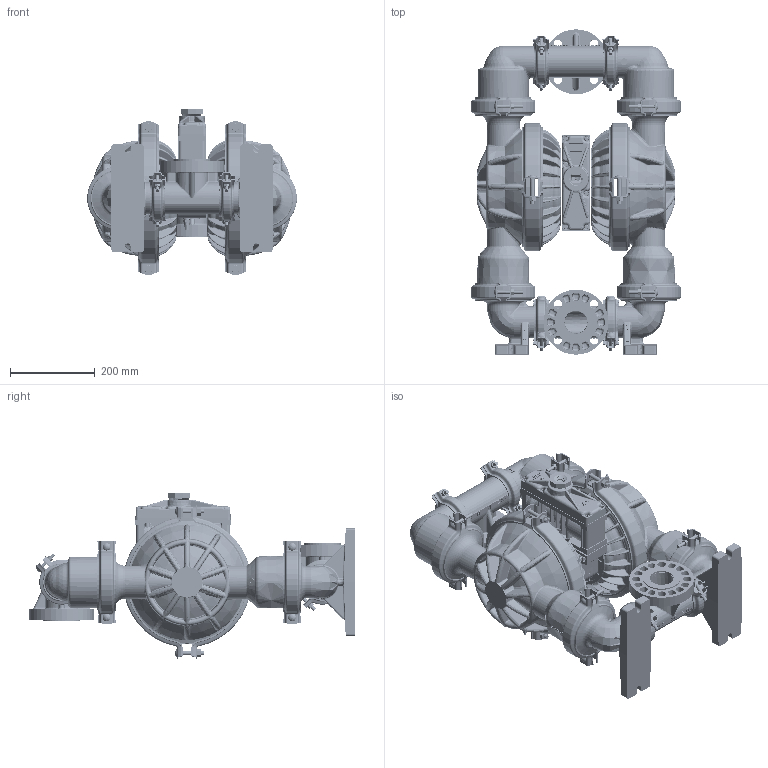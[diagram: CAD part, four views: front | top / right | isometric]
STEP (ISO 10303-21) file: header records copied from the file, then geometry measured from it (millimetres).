
FILE_DESCRIPTION((''),'2;1');
FILE_NAME('PS8_CHAMP_PLASTIC_POL_SW0001','2014-10-21T',('nathan.hale'),(''),'PRO/ENGINEER BY PARAMETRIC TECHNOLOGY CORPORATION, 2011180','PRO/ENGINEER BY PARAMETRIC TECHNOLOGY CORPORATION, 2011180','');
FILE_SCHEMA(('CONFIG_CONTROL_DESIGN'));
Products named in the file (1): PS8_CHAMP_PLASTIC_POL_SW0001
Bounding box: 495.34 x 769.24 x 392.51 mm (x, y, z)
Volume: 16888850 mm3; surface area: 3504257.4 mm2
Topology: 16 solids, 16 shells, 25004 faces, 64661 edges, 40557 vertices
Faces by surface type: plane 14431, bspline 3318, cylinder 2939, torus 1906, cone 1554, sphere 772, extrusion 84
Entity records: 1087240 total; most frequent: CARTESIAN_POINT 502406, ORIENTED_EDGE 129190, DIRECTION 110625, EDGE_CURVE 64595, VECTOR 41559, LINE 41475, VERTEX_POINT 40557, AXIS2_PLACEMENT_3D 34533
